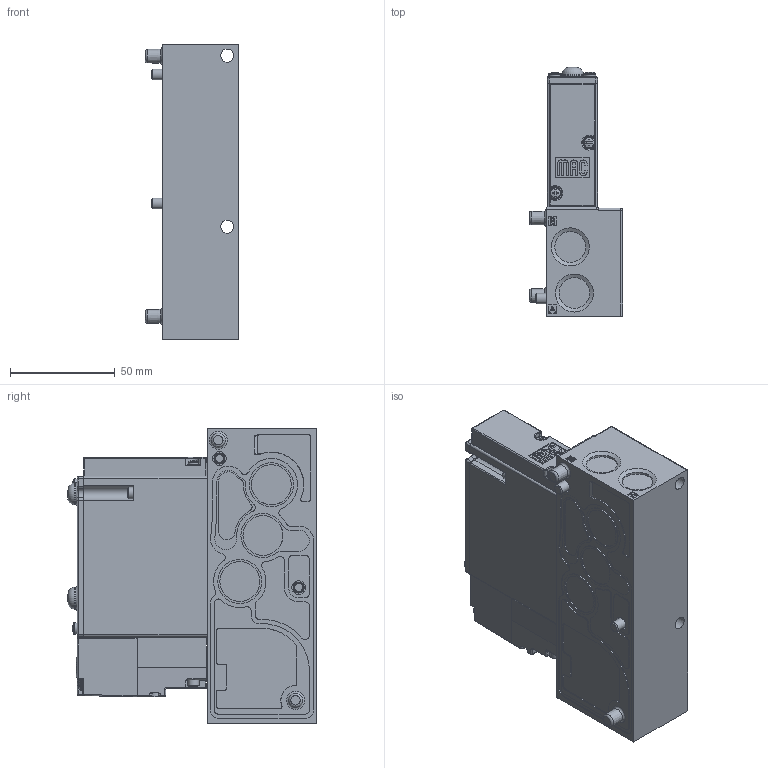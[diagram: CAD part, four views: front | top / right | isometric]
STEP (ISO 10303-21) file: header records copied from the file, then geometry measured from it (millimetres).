
FILE_DESCRIPTION (( 'STEP AP214' ), '1' );
FILE_NAME ('92A-AAA-C3J-DM-DXXP-YZZ.STEP', '2019-07-05T15:03:53', ( 'user' ), ( '' ), 'SwSTEP 2.0', 'SolidWorks 2014', '' );
FILE_SCHEMA (( 'AUTOMOTIVE_DESIGN' ));
Length unit declared in the file: millimetre
Products named in the file (6): 92-OPERATOR-DXXP-YDM; 92-PILOT-DM; 92-BODY-AAA; 92-BASE-C3J; 92A-AAA-C3J-DM-DXXP-YZZ; 92-OVERRIDE-1
Assembly tree (5 placements, depth 2):
  92A-AAA-C3J-DM-DXXP-YZZ
    92-BASE-C3J
    92-BODY-AAA
    92-PILOT-DM
    92-OPERATOR-DXXP-YDM
    92-OVERRIDE-1
Bounding box: 44.5 x 118.6 x 141 mm (x, y, z)
Volume: 409394.1 mm3; surface area: 78951.3 mm2
Topology: 27 solids, 31 shells, 2186 faces, 5575 edges, 3618 vertices
Faces by surface type: plane 1193, cylinder 628, cone 167, bspline 109, torus 49, sphere 40
Full cylindrical faces by diameter (mm): 0.01 x2, 0.72 x1, 0.74 x1, 0.85 x1, 0.95 x2, 1 x1, 2 x2, 2.2 x2, 2.4 x2, 2.5 x2, 2.6 x2, 2.7 x1, 2.79 x4, 3 x10, 3.15 x2, 3.25 x2, 3.3 x4, 3.35 x2, 3.6 x1, 4.775 x2, 5 x3, 5.1 x1, 5.25 x2, 5.5 x8, 5.6 x1, 6.185 x2, 6.22 x1, 6.6 x2, 6.8 x2, 6.92 x1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
Entity records: 93373 total; most frequent: CARTESIAN_POINT 16738, ORIENTED_EDGE 10712, DIRECTION 10640, EDGE_CURVE 5356, AXIS2_PLACEMENT_3D 3640, VERTEX_POINT 3590, VECTOR 3360, LINE 3360
